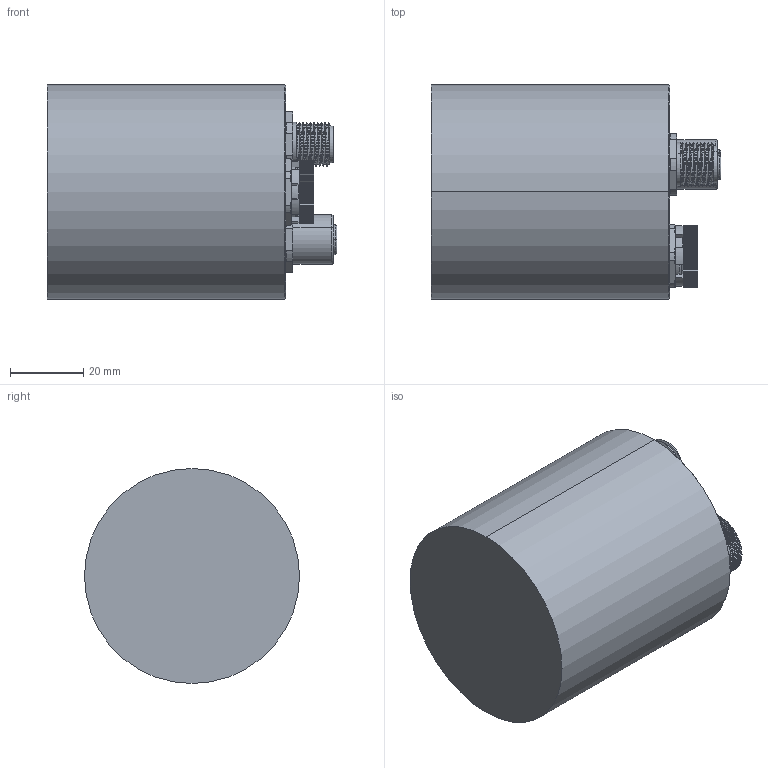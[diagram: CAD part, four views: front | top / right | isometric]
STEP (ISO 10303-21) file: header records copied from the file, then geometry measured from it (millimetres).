
FILE_DESCRIPTION (( 'STEP AP214' ), '1' );
FILE_NAME ('Drawing-OC-5-CR-650-SZM-GRNNNN-N.STEP', '2016-07-21T15:23:55', ( '' ), ( '' ), 'SwSTEP 2.0', 'SolidWorks 2015', '' );
FILE_SCHEMA (( 'AUTOMOTIVE_DESIGN' ));
Length unit declared in the file: millimetre
Products named in the file (1): Drawing-OC-5-CR-650-SZM-GRNNNN-N
Bounding box: 79 x 58.6 x 58.6 mm (x, y, z)
Surface area: 25672.8 mm2 (no closed solid volume)
Topology: 0 solids, 12 shells, 1019 faces, 2780 edges, 1801 vertices
Faces by surface type: plane 440, cylinder 328, cone 132, bspline 60, torus 54, sphere 5
Entity records: 51579 total; most frequent: CARTESIAN_POINT 14719, ORIENTED_EDGE 5475, DIRECTION 5414, EDGE_CURVE 2745, AXIS2_PLACEMENT_3D 2056, VERTEX_POINT 1790, VECTOR 1302, LINE 1302
